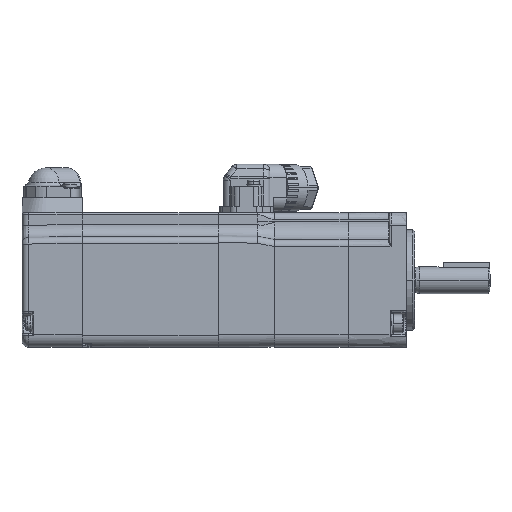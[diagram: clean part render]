
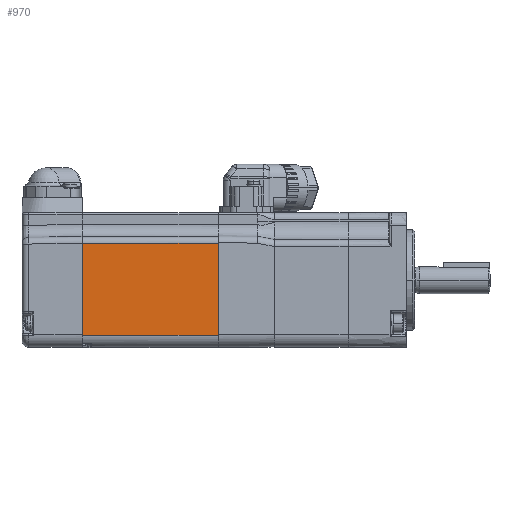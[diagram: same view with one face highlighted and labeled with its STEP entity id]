
A CAD part, top view. The second image highlights one B-rep face of the part: STEP entity #970.
In plain terms, the highlighted planar face has unit normal (0, 0, 1).
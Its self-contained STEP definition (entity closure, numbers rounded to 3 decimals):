
#970=ADVANCED_FACE('',(#7194),#7193,.F.);
#7193=PLANE('',#14331);
#7194=FACE_OUTER_BOUND('',#14332,.T.);
#14328=CARTESIAN_POINT('',(-51.95,-19.131,20.));
#14329=DIRECTION('',(0.,0.,-1.));
#14330=DIRECTION('',(-1.,0.,0.));
#14331=AXIS2_PLACEMENT_3D('',#14328,#14329,#14330);
#14332=EDGE_LOOP('',(#19559,#19560,#19561,#19562));
#19559=ORIENTED_EDGE('',*,*,#21943,.F.);
#19560=ORIENTED_EDGE('',*,*,#22408,.T.);
#19561=ORIENTED_EDGE('',*,*,#21433,.T.);
#19562=ORIENTED_EDGE('',*,*,#21560,.T.);
#21433=EDGE_CURVE('',#28338,#28331,#28339,.T.);
#21560=EDGE_CURVE('',#28331,#29192,#29199,.T.);
#21943=EDGE_CURVE('',#31788,#29192,#31795,.T.);
#22408=EDGE_CURVE('',#31788,#28338,#34846,.T.);
#28331=VERTEX_POINT('',#40604);
#28338=VERTEX_POINT('',#40609);
#28339=LINE('',#40610,#40611);
#29192=VERTEX_POINT('',#41252);
#29199=LINE('',#41257,#41258);
#31788=VERTEX_POINT('',#42982);
#31795=LINE('',#42987,#42988);
#34846=LINE('',#45003,#45004);
#40604=CARTESIAN_POINT('',(-96.5,-16.4,20.));
#40609=CARTESIAN_POINT('',(-96.5,10.912,20.));
#40610=CARTESIAN_POINT('',(-96.5,10.912,20.));
#40611=VECTOR('',#40612,27.312);
#40612=DIRECTION('',(0.,-1.,0.));
#41252=CARTESIAN_POINT('',(-56.,-16.4,20.));
#41257=CARTESIAN_POINT('',(-96.5,-16.4,20.));
#41258=VECTOR('',#41259,40.5);
#41259=DIRECTION('',(1.,0.,0.));
#42982=CARTESIAN_POINT('',(-56.,10.912,20.));
#42987=CARTESIAN_POINT('',(-56.,10.912,20.));
#42988=VECTOR('',#42989,27.312);
#42989=DIRECTION('',(0.,-1.,0.));
#45003=CARTESIAN_POINT('',(-56.,10.912,20.));
#45004=VECTOR('',#45005,40.5);
#45005=DIRECTION('',(-1.,0.,0.));
